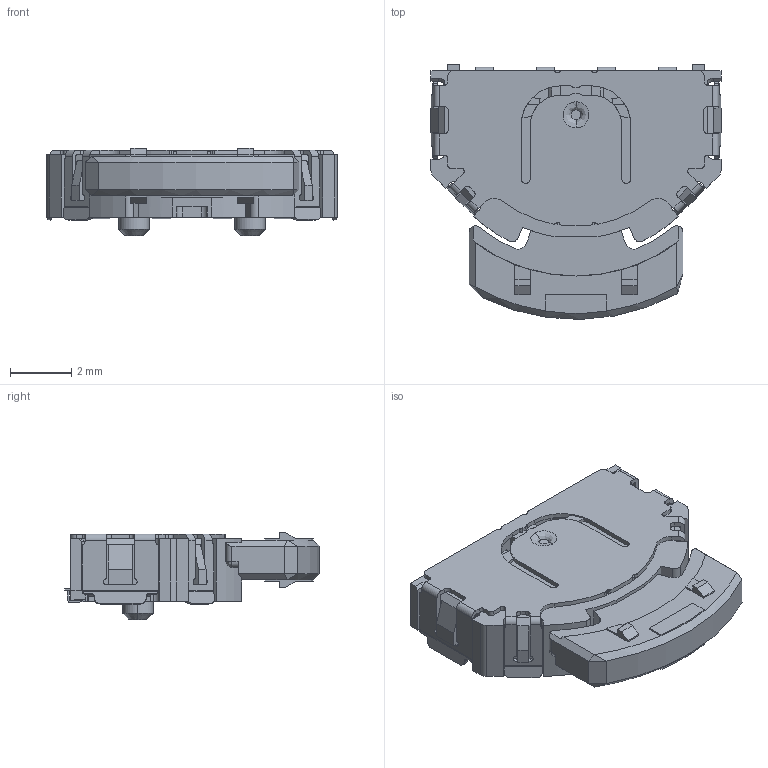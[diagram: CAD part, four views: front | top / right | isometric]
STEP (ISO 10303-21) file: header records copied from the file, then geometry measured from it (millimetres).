
FILE_DESCRIPTION (( 'STEP AP214' ), '1' );
FILE_NAME ('SLLB520100.STEP', '2015-03-11T05:10:38', ( 'user' ), ( 'Hewlett-Packard Company' ), 'SwSTEP 2.0', 'SolidWorks 2014', '' );
FILE_SCHEMA (( 'AUTOMOTIVE_DESIGN' ));
Length unit declared in the file: millimetre
Products named in the file (1): SLLB520100
Bounding box: 9.5 x 8.35 x 2.85 mm (x, y, z)
Volume: 116.1 mm3; surface area: 267.3 mm2
Topology: 1 solids, 1 shells, 586 faces, 1674 edges, 1080 vertices
Faces by surface type: plane 372, cylinder 194, bspline 12, cone 8
Entity records: 22447 total; most frequent: CARTESIAN_POINT 3717, ORIENTED_EDGE 3344, DIRECTION 3216, EDGE_CURVE 1672, LINE 1154, VECTOR 1154, VERTEX_POINT 1080, AXIS2_PLACEMENT_3D 1031
